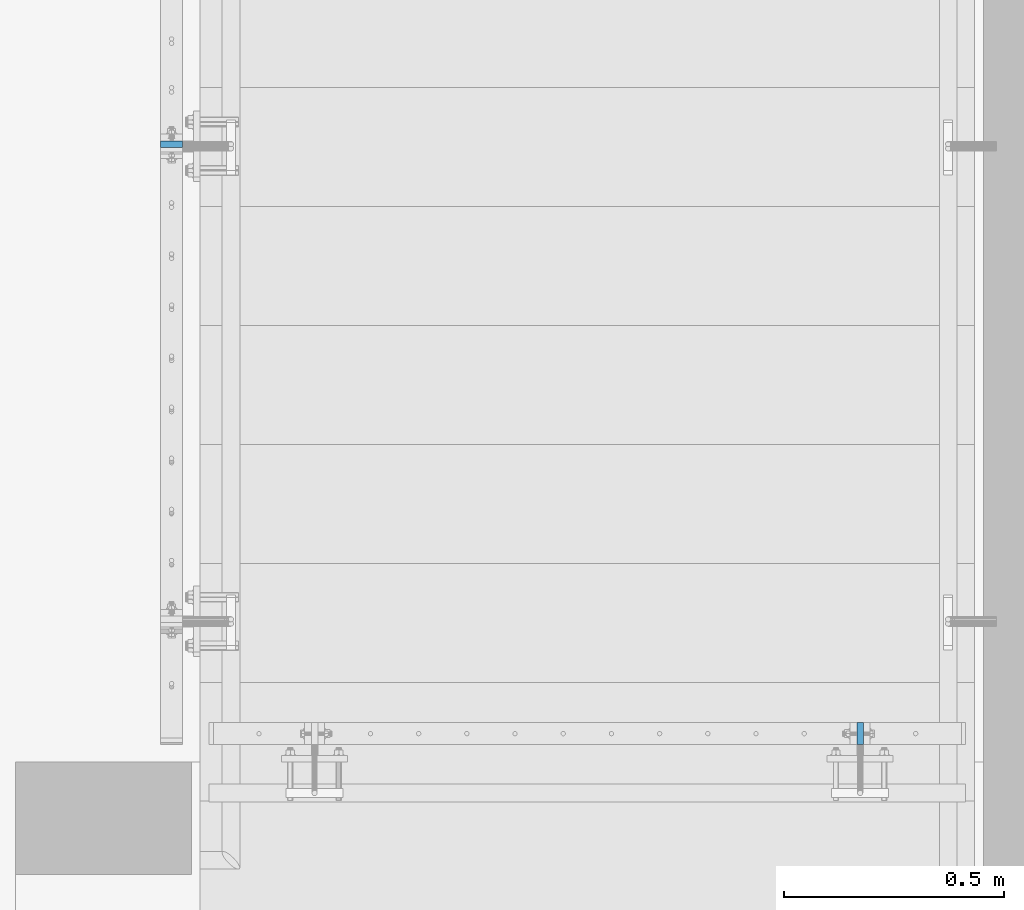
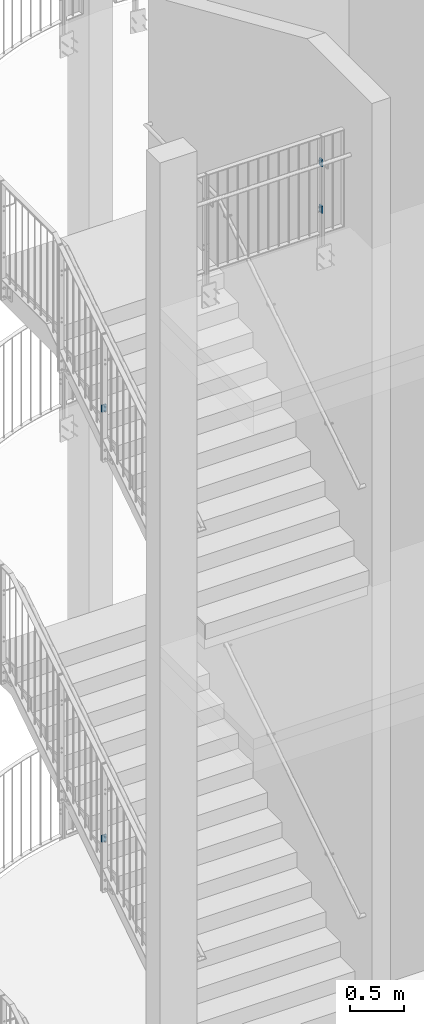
# One storey, part 121 of 296: 4 plates, 8 openings.
"""IFC2X3 building model written with IfcOpenShell, lengths in millimetres."""

import ifcopenshell
import ifcopenshell.guid

model = None  # the IFC model being written
_history = None  # IfcOwnerHistory: only IFC2X3 demands one
_inside = {}  # id of a spatial element -> (the spatial element, [elements in it])
_under = {}  # id of a project, library or spatial element -> (it, [spatial elements below it])
_declared = {}  # id of a project -> (the project, [libraries it declares])
_typed = {}  # id of a type object -> (the type object, [elements of that type])
_made_of = {}  # id of a material, layer set ... -> (it, [elements and type objects made of it])


def new_model(schema):
    """Start an empty IFC model of exactly this schema.

    Asked for "IFC4X3", IfcOpenShell would pick the latest addendum, in which some entities
    have other attributes; the version numbers below select the first issue.
    IFC2X3 requires an IfcOwnerHistory on every rooted entity: one is made here for all.
    """
    global model, _history
    if schema == "IFC4X3":
        model = ifcopenshell.file(schema_version=(4, 3, 0, 0))
    else:
        model = ifcopenshell.file(schema=schema)
    _inside.clear()
    _under.clear()
    _declared.clear()
    _typed.clear()
    _made_of.clear()
    _history = None
    if model.schema == "IFC2X3":
        org = make("IfcOrganization", Name="unknown")
        user = make(
            "IfcPersonAndOrganization",
            ThePerson=make("IfcPerson", FamilyName="unknown"),
            TheOrganization=org,
        )
        app = make(
            "IfcApplication",
            ApplicationDeveloper=org,
            Version="unknown",
            ApplicationFullName="unknown",
            ApplicationIdentifier="unknown",
        )
        _history = make(
            "IfcOwnerHistory",
            OwningUser=user,
            OwningApplication=app,
            ChangeAction="ADDED",
            CreationDate=0,
        )
    return model


def make(cls, **values):
    """One entity of the class cls with the attributes given. An attribute that is None is left unset."""
    return model.create_entity(
        cls, **{name: value for name, value in values.items() if value is not None}
    )


def entity(cls, *values):
    """Any entity or typed value of the class cls, its attributes in the order of the schema. None: left unset."""
    e = model.create_entity(cls)
    for i, value in enumerate(values):
        if value is not None:
            e[i] = value
    return e


def rooted(cls, **values):
    """An entity with a GlobalId (a new one), such as an element, a storey or a relation."""
    return make(cls, GlobalId=ifcopenshell.guid.new(), OwnerHistory=_history, **values)


def si_unit(unit_type, name, prefix=None):
    """IfcSIUnit, for example si_unit("LENGTHUNIT", "METRE", prefix="MILLI")."""
    return make("IfcSIUnit", UnitType=unit_type, Prefix=prefix, Name=name)


def converted_unit(unit_type, name, factor, base, dimensions=None, offset=None):
    """IfcConversionBasedUnit, such as the inch: factor (a typed value) times the base unit."""
    return make(
        "IfcConversionBasedUnit"
        if offset is None
        else "IfcConversionBasedUnitWithOffset",
        ConversionOffset=offset,
        Dimensions=None
        if dimensions is None
        else entity("IfcDimensionalExponents", *dimensions),
        UnitType=unit_type,
        Name=name,
        ConversionFactor=make(
            "IfcMeasureWithUnit", ValueComponent=factor, UnitComponent=base
        ),
    )


def assignment(units):
    """IfcUnitAssignment: the units of a project."""
    return None if units is None else make("IfcUnitAssignment", Units=units)


def point(xyz):
    """IfcCartesianPoint."""
    return None if xyz is None else make("IfcCartesianPoint", Coordinates=xyz)


def direction(xyz):
    """IfcDirection."""
    return None if xyz is None else make("IfcDirection", DirectionRatios=xyz)


def frame(location, z_axis=None, x_axis=None):
    """IfcAxis2Placement3D, a coordinate frame: its origin and axes. An axis left out is left unset."""
    return make(
        "IfcAxis2Placement3D",
        Location=point(location),
        Axis=direction(z_axis),
        RefDirection=direction(x_axis),
    )


def frame_2d(location, x_axis=None):
    """IfcAxis2Placement2D, a coordinate frame in the plane: its origin and x axis."""
    return make(
        "IfcAxis2Placement2D", Location=point(location), RefDirection=direction(x_axis)
    )


def origin():
    """The frame at (0, 0, 0) with its axes left unset."""
    return frame((0.0, 0.0, 0.0))


def origin_with_axes():
    """The frame at (0, 0, 0) with the z axis (0, 0, 1) and the x axis (1, 0, 0) written out."""
    return frame((0.0, 0.0, 0.0), z_axis=(0.0, 0.0, 1.0), x_axis=(1.0, 0.0, 0.0))


def place(relative_to, where):
    """IfcLocalPlacement: puts the frame where relative to a parent placement (None: the world)."""
    return make(
        "IfcLocalPlacement", PlacementRelTo=relative_to, RelativePlacement=where
    )


def context(
    kind, dimensions, precision=None, world=None, true_north=None, identifier=None
):
    """IfcGeometricRepresentationContext, for example the 3D "Model" context."""
    return make(
        "IfcGeometricRepresentationContext",
        ContextIdentifier=identifier,
        ContextType=kind,
        CoordinateSpaceDimension=dimensions,
        Precision=precision,
        WorldCoordinateSystem=world,
        TrueNorth=true_north,
    )


def project(units=None, contexts=None):
    """IfcProject with its units and contexts."""
    return rooted(
        "IfcProject",
        Name="project",
        RepresentationContexts=contexts,
        UnitsInContext=assignment(units),
    )


def spatial(cls, under=None, at=None, **own):
    """A site, building, storey or space (cls), placed at a placement, below another one or the project."""
    s = rooted(cls, ObjectPlacement=at, **own)
    if under is not None:
        _under.setdefault(under.id(), (under, []))[1].append(s)
    return s


def polyline(points):
    """IfcPolyline through the points."""
    return make("IfcPolyline", Points=[point(p) for p in points])


def profile(cls, at=None, kind="AREA", **sizes):
    """A parametric profile (cls). Its sizes go by their IFC names, for example OverallWidth=200.0."""
    return make(cls, ProfileType=kind, Position=at, **sizes)


def circle(**sizes):
    """IfcCircleProfileDef."""
    return profile("IfcCircleProfileDef", **sizes)


def outline(outer, holes=None, kind="AREA"):
    """IfcArbitraryClosedProfileDef: a profile drawn as a closed curve; with holes, ...WithVoids."""
    if holes is None:
        return make("IfcArbitraryClosedProfileDef", ProfileType=kind, OuterCurve=outer)
    return make(
        "IfcArbitraryProfileDefWithVoids",
        ProfileType=kind,
        OuterCurve=outer,
        InnerCurves=holes,
    )


def extrude(swept, where, along, depth):
    """IfcExtrudedAreaSolid: the profile swept, set in the frame where, extruded along a direction by depth."""
    return make(
        "IfcExtrudedAreaSolid",
        SweptArea=swept,
        Position=where,
        ExtrudedDirection=direction(along),
        Depth=depth,
    )


def shape(context_of_items, identifier, shape_type, items):
    """IfcShapeRepresentation: the items that make up one representation, for example the "Body"."""
    return make(
        "IfcShapeRepresentation",
        ContextOfItems=context_of_items,
        RepresentationIdentifier=identifier,
        RepresentationType=shape_type,
        Items=items,
    )


def material(Name=None, Category=None):
    """IfcMaterial."""
    return make("IfcMaterial", Name=Name, Category=Category)


def layer(
    of_material, thickness, ventilated=None, Name=None, Category=None, Priority=None
):
    """IfcMaterialLayer: one layer of a wall or slab, of a material (None: an air gap)."""
    return make(
        "IfcMaterialLayer",
        Material=of_material,
        LayerThickness=thickness,
        IsVentilated=ventilated,
        Name=Name,
        Category=Category,
        Priority=Priority,
    )


def layer_set(layers, Name=None):
    """IfcMaterialLayerSet."""
    return make("IfcMaterialLayerSet", MaterialLayers=layers, LayerSetName=Name)


def made_of(thing, what):
    """Note that an element or type object is made of a material, layer set ...; save() writes the relation."""
    if what is not None:
        _made_of.setdefault(what.id(), (what, []))[1].append(thing)
    return thing


def element(
    cls,
    number,
    at=None,
    inside=None,
    cuts=None,
    type_object=None,
    material=None,
    context=None,
    identifier="Body",
    shape_type=None,
    held_by="IfcProductDefinitionShape",
    body=None,
    shapes=None,
    **own,
):
    """One element of the class cls, such as IfcWall. Its Tag is "e" and its number.

    at: its placement. inside: the storey or other place that contains it. cuts: it is an
    opening in that element (IfcRelVoidsElement). A single representation is given by context,
    identifier, shape_type and body (its items); several are given by shapes. held_by: the class
    of the entity that holds the representations. save() writes the other relations.
    """
    e = rooted(cls, Tag="e%d" % number, ObjectPlacement=at, **own)
    if body is not None:
        shapes = [shape(context, identifier, shape_type, body)]
    if shapes is not None:
        e.Representation = make(held_by, Representations=shapes)
    if inside is not None:
        _inside.setdefault(inside.id(), (inside, []))[1].append(e)
    if cuts is not None:
        rooted(
            "IfcRelVoidsElement", RelatingBuildingElement=cuts, RelatedOpeningElement=e
        )
    if type_object is not None:
        _typed.setdefault(type_object.id(), (type_object, []))[1].append(e)
    return made_of(e, material)


def aggregate(whole, parts):
    """IfcRelAggregates: a whole, such as a stair, and the parts it consists of."""
    return rooted("IfcRelAggregates", RelatingObject=whole, RelatedObjects=parts)


def save(model, path):
    """Write the relations noted so far, then the file.

    IfcRelAggregates (storeys below a building ...), IfcRelContainedInSpatialStructure (elements
    in a storey), IfcRelDefinesByType, IfcRelAssociatesMaterial and IfcRelDeclares: one each for
    every whole, place, type object, material and project.
    """
    for whole, parts in _under.values():
        aggregate(whole, parts)
    for where, things in _inside.values():
        rooted(
            "IfcRelContainedInSpatialStructure",
            RelatedElements=things,
            RelatingStructure=where,
        )
    for kind, things in _typed.values():
        rooted("IfcRelDefinesByType", RelatedObjects=things, RelatingType=kind)
    for what, things in _made_of.values():
        rooted("IfcRelAssociatesMaterial", RelatedObjects=things, RelatingMaterial=what)
    for by, libraries in _declared.values():
        rooted("IfcRelDeclares", RelatingContext=by, RelatedDefinitions=libraries)
    model.write(path)


model = new_model("IFC2X3")

# Units and contexts
model_context = context("Model", 3, precision=1e-09, world=origin_with_axes())
ifc_project = project(units=[si_unit("LENGTHUNIT", "METRE", prefix="MILLI"), si_unit("AREAUNIT", "SQUARE_METRE"), si_unit("VOLUMEUNIT", "CUBIC_METRE"), converted_unit("PLANEANGLEUNIT", "DEGREE", entity("IfcPlaneAngleMeasure", 0.01745329), si_unit("PLANEANGLEUNIT", "RADIAN"), dimensions=[0, 0, 0, 0, 0, 0, 0])], contexts=[model_context])

# Site, building, storey
site_placement = place(None, origin_with_axes())
site = spatial("IfcSite", under=ifc_project, at=site_placement, Name="TZD-S?d | Treppenhausgel?nder", CompositionType="ELEMENT")
building_placement = place(site_placement, origin_with_axes())
building = spatial("IfcBuilding", under=site, at=building_placement, Name="Struktur 1", CompositionType="ELEMENT")
storey_placement = place(building_placement, origin_with_axes())
storey = spatial("IfcBuildingStorey", under=building, at=storey_placement, Name="Default Storey", CompositionType="ELEMENT", Elevation=0.0)

# Plate, openings
ifc_material = material(Name="S235JR")
ifc_layer = layer(ifc_material, 15.0)
ifc_layer_set = layer_set([ifc_layer], Name="S235JR")
plate_1_placement = place(None, frame((1512.501414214, -3710.001, 13915.001), z_axis=(-1.0, 0.0, 0.0), x_axis=(0.0, -1.0, 0.0)))
plate_1 = element("IfcPlate", 1, at=plate_1_placement, inside=storey, material=ifc_layer_set, Name="Girder", ObjectType="Girder", context=model_context, shape_type="SweptSolid", body=[
    extrude(outline(polyline([(-25.0, -40.0), (25.0, -40.0), (25.0, 40.0), (-25.0, 40.0), (-25.0, -40.0)])), origin_with_axes(), (0.0, 0.0, -1.0), 15.0),
])
opening_1_placement = place(plate_1_placement, frame((-5.001, 24.999999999, 0.5), z_axis=(0.0, 0.0, 1.0), x_axis=(1.0, 0.0, 0.0)))
element("IfcOpeningElement", 2, at=opening_1_placement, cuts=plate_1, ObjectType="Opening", context=model_context, shape_type="SweptSolid", body=[
    extrude(circle(Radius=5.001, at=frame_2d((5.001, 0.0), x_axis=(1.0, 0.0))), origin(), (0.0, 0.0, -1.0), 16.0),
])
opening_2_placement = place(plate_1_placement, frame((-5.001, -25.000000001, 0.5), z_axis=(0.0, 0.0, 1.0), x_axis=(1.0, 0.0, 0.0)))
element("IfcOpeningElement", 3, at=opening_2_placement, cuts=plate_1, ObjectType="Opening", context=model_context, shape_type="SweptSolid", body=[
    extrude(circle(Radius=5.001, at=frame_2d((5.001, 0.0), x_axis=(1.0, 0.0))), origin(), (0.0, 0.0, -1.0), 16.0),
])

plate_2_placement = place(None, frame((1512.501414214, -3710.001, 14445.001), z_axis=(-1.0, 0.0, 0.0), x_axis=(0.0, -1.0, 0.0)))
plate_2 = element("IfcPlate", 4, at=plate_2_placement, inside=storey, material=ifc_layer_set, Name="Girder", ObjectType="Girder", context=model_context, shape_type="SweptSolid", body=[
    extrude(outline(polyline([(-25.0, -40.0), (25.0, -40.0), (25.0, 40.0), (-25.0, 40.0), (-25.0, -40.0)])), origin_with_axes(), (0.0, 0.0, -1.0), 15.0),
])
opening_3_placement = place(plate_2_placement, frame((-5.001, 24.999999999, 0.5), z_axis=(0.0, 0.0, 1.0), x_axis=(1.0, 0.0, 0.0)))
element("IfcOpeningElement", 5, at=opening_3_placement, cuts=plate_2, ObjectType="Opening", context=model_context, shape_type="SweptSolid", body=[
    extrude(circle(Radius=5.001, at=frame_2d((5.001, 0.0), x_axis=(1.0, 0.0))), origin(), (0.0, 0.0, -1.0), 16.0),
])
opening_4_placement = place(plate_2_placement, frame((-5.001, -25.000000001, 0.5), z_axis=(0.0, 0.0, 1.0), x_axis=(1.0, 0.0, 0.0)))
element("IfcOpeningElement", 6, at=opening_4_placement, cuts=plate_2, ObjectType="Opening", context=model_context, shape_type="SweptSolid", body=[
    extrude(circle(Radius=5.001, at=frame_2d((5.001, 0.0), x_axis=(1.0, 0.0))), origin(), (0.0, 0.0, -1.0), 16.0),
])

plate_3_placement = place(None, frame((-45.0, -2362.5, 11379.999), z_axis=(0.0, -1.0, 0.0), x_axis=(1.0, 0.0, 0.0)))
plate_3 = element("IfcPlate", 7, at=plate_3_placement, inside=storey, material=ifc_layer_set, Name="Girder", ObjectType="Girder", context=model_context, shape_type="SweptSolid", body=[
    extrude(outline(polyline([(-25.0, -40.0), (25.0, -40.0), (25.0, 40.0), (-25.0, 40.0), (-25.0, -40.0)])), origin_with_axes(), (0.0, 0.0, 1.0), 15.0),
])
opening_5_placement = place(plate_3_placement, frame((0.0, -1e-09, -0.5), z_axis=(0.0, 0.0, 1.0), x_axis=(1.0, 0.0, 0.0)))
element("IfcOpeningElement", 8, at=opening_5_placement, cuts=plate_3, ObjectType="Opening", context=model_context, shape_type="SweptSolid", body=[
    extrude(circle(Radius=5.001, at=frame_2d((0.0, 25.0), x_axis=(1.0, 0.0))), origin(), (0.0, 0.0, 1.0), 16.0),
])
opening_6_placement = place(plate_3_placement, frame((0.0, -1e-09, -0.5), z_axis=(0.0, 0.0, 1.0), x_axis=(1.0, 0.0, 0.0)))
element("IfcOpeningElement", 9, at=opening_6_placement, cuts=plate_3, ObjectType="Opening", context=model_context, shape_type="SweptSolid", body=[
    extrude(circle(Radius=5.001, at=frame_2d((0.0, -25.0), x_axis=(1.0, 0.0))), origin(), (0.0, 0.0, 1.0), 16.0),
])

plate_4_placement = place(None, frame((-45.0, -2362.5, 6479.999), z_axis=(0.0, -1.0, 0.0), x_axis=(1.0, 0.0, 0.0)))
plate_4 = element("IfcPlate", 10, at=plate_4_placement, inside=storey, material=ifc_layer_set, Name="Girder", ObjectType="Girder", context=model_context, shape_type="SweptSolid", body=[
    extrude(outline(polyline([(-25.0, -40.0), (25.0, -40.0), (25.0, 40.0), (-25.0, 40.0), (-25.0, -40.0)])), origin_with_axes(), (0.0, 0.0, 1.0), 15.0),
])
opening_7_placement = place(plate_4_placement, frame((0.0, -1e-09, -0.5), z_axis=(0.0, 0.0, 1.0), x_axis=(1.0, 0.0, 0.0)))
element("IfcOpeningElement", 11, at=opening_7_placement, cuts=plate_4, ObjectType="Opening", context=model_context, shape_type="SweptSolid", body=[
    extrude(circle(Radius=5.001, at=frame_2d((0.0, 25.0), x_axis=(1.0, 0.0))), origin(), (0.0, 0.0, 1.0), 16.0),
])
opening_8_placement = place(plate_4_placement, frame((0.0, -1e-09, -0.5), z_axis=(0.0, 0.0, 1.0), x_axis=(1.0, 0.0, 0.0)))
element("IfcOpeningElement", 12, at=opening_8_placement, cuts=plate_4, ObjectType="Opening", context=model_context, shape_type="SweptSolid", body=[
    extrude(circle(Radius=5.001, at=frame_2d((0.0, -25.0), x_axis=(1.0, 0.0))), origin(), (0.0, 0.0, 1.0), 16.0),
])

save(model, "model.ifc")
